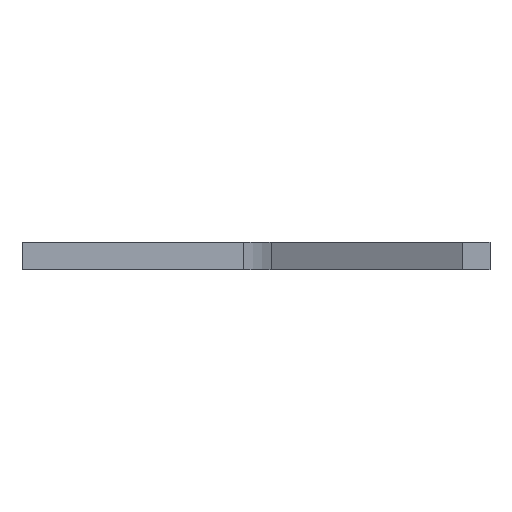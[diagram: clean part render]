
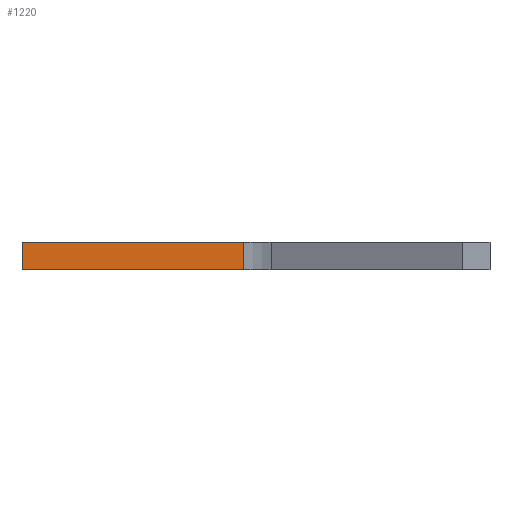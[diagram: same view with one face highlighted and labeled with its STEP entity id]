
A CAD part, left-side view. The second image highlights one B-rep face of the part: STEP entity #1220.
In plain terms, the highlighted planar face has unit normal (-1, 0, 0).
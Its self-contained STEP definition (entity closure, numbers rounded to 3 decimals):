
#70=PLANE('',#1356);
#131=FACE_OUTER_BOUND('',#220,.T.);
#220=EDGE_LOOP('',(#1111,#1112,#1113,#1114));
#262=LINE('',#1821,#373);
#287=LINE('',#1931,#398);
#310=LINE('',#1980,#421);
#335=LINE('',#2057,#446);
#373=VECTOR('',#1448,10.);
#398=VECTOR('',#1551,10.);
#421=VECTOR('',#1608,10.);
#446=VECTOR('',#1703,10.);
#549=VERTEX_POINT('',#1818);
#550=VERTEX_POINT('',#1820);
#595=VERTEX_POINT('',#1928);
#596=VERTEX_POINT('',#1930);
#671=EDGE_CURVE('',#549,#550,#262,.T.);
#727=EDGE_CURVE('',#595,#596,#287,.T.);
#753=EDGE_CURVE('',#596,#549,#310,.T.);
#792=EDGE_CURVE('',#550,#595,#335,.T.);
#1111=ORIENTED_EDGE('',*,*,#792,.F.);
#1112=ORIENTED_EDGE('',*,*,#671,.F.);
#1113=ORIENTED_EDGE('',*,*,#753,.F.);
#1114=ORIENTED_EDGE('',*,*,#727,.F.);
#1220=ADVANCED_FACE('',(#131),#70,.F.);
#1356=AXIS2_PLACEMENT_3D('',#2059,#1705,#1706);
#1448=DIRECTION('',(0.,-1.,0.));
#1551=DIRECTION('',(0.,1.,0.));
#1608=DIRECTION('',(0.,0.,1.));
#1703=DIRECTION('',(0.,0.,-1.));
#1705=DIRECTION('center_axis',(1.,0.,0.));
#1706=DIRECTION('ref_axis',(0.,-1.,0.));
#1818=CARTESIAN_POINT('',(-19.338,506.097,12.));
#1820=CARTESIAN_POINT('',(-19.338,410.439,12.));
#1821=CARTESIAN_POINT('',(-19.338,396.097,12.));
#1928=CARTESIAN_POINT('',(-19.338,410.439,0.));
#1930=CARTESIAN_POINT('',(-19.338,506.097,0.));
#1931=CARTESIAN_POINT('',(-19.338,396.097,0.));
#1980=CARTESIAN_POINT('',(-19.338,506.097,9.));
#2057=CARTESIAN_POINT('',(-19.338,410.439,12.));
#2059=CARTESIAN_POINT('Origin',(-19.338,476.097,12.));
